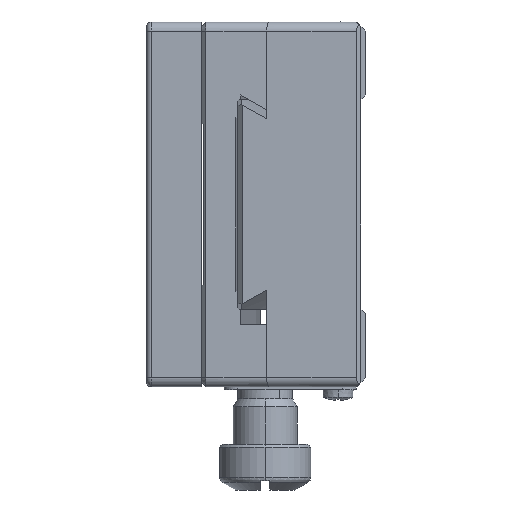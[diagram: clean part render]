
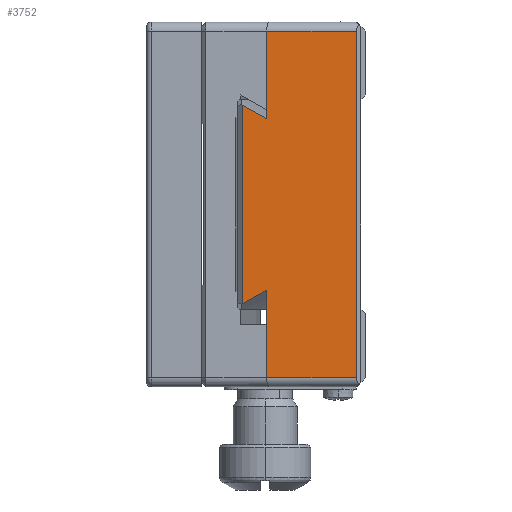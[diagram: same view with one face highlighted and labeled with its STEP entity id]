
A CAD part, left-side view. The second image highlights one B-rep face of the part: STEP entity #3752.
In plain terms, the highlighted planar face has unit normal (-1, 0, 0).
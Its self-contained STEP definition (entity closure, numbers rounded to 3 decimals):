
#139 = B_SPLINE_CURVE_WITH_KNOTS ( 'NONE', 3,
 ( #7684, #8243, #36913, #17861 ),
 .UNSPECIFIED., .F., .F.,
 ( 4, 4 ),
 ( 0.013, 0.016 ),
 .UNSPECIFIED. ) ;
#1006 = ORIENTED_EDGE ( 'NONE', *, *, #37085, .T. ) ;
#1068 = EDGE_LOOP ( 'NONE', ( #5931, #1397, #15927, #13439, #18170, #2226, #29229, #1006 ) ) ;
#1397 = ORIENTED_EDGE ( 'NONE', *, *, #25516, .T. ) ;
#2022 = DIRECTION ( 'NONE',  ( 0., 1., 0. ) ) ;
#2226 = ORIENTED_EDGE ( 'NONE', *, *, #28968, .T. ) ;
#2250 = DIRECTION ( 'NONE',  ( 0., 0., -1. ) ) ;
#2450 = VERTEX_POINT ( 'NONE', #9003 ) ;
#2877 = DIRECTION ( 'NONE',  ( 0., 0., -1. ) ) ;
#3685 = DIRECTION ( 'NONE',  ( 1., 0., 0. ) ) ;
#3752 = ADVANCED_FACE ( 'NONE', ( #32842 ), #16351, .F. ) ;
#5931 = ORIENTED_EDGE ( 'NONE', *, *, #14426, .T. ) ;
#6574 = VERTEX_POINT ( 'NONE', #34951 ) ;
#7684 = CARTESIAN_POINT ( 'NONE',  ( -27., -93.167, 9.402 ) ) ;
#8243 = CARTESIAN_POINT ( 'NONE',  ( -27., -92.278, 9.895 ) ) ;
#8363 = VECTOR ( 'NONE', #2022, 1000. ) ;
#8469 = LINE ( 'NONE', #28451, #32856 ) ;
#9003 = CARTESIAN_POINT ( 'NONE',  ( -27., -93.167, 19. ) ) ;
#10941 = EDGE_CURVE ( 'NONE', #36643, #2450, #25331, .T. ) ;
#11441 = CARTESIAN_POINT ( 'NONE',  ( -27., -93.167, 19. ) ) ;
#11847 = AXIS2_PLACEMENT_3D ( 'NONE', #32200, #3685, #25944 ) ;
#12177 = EDGE_CURVE ( 'NONE', #20521, #36643, #28229, .T. ) ;
#12189 = VERTEX_POINT ( 'NONE', #38967 ) ;
#12976 = CARTESIAN_POINT ( 'NONE',  ( -27., -90.5, -10.879 ) ) ;
#13405 = VECTOR ( 'NONE', #2250, 1000. ) ;
#13439 = ORIENTED_EDGE ( 'NONE', *, *, #10941, .T. ) ;
#13745 = CARTESIAN_POINT ( 'NONE',  ( -27., -93.167, -19. ) ) ;
#14296 = VERTEX_POINT ( 'NONE', #30263 ) ;
#14426 = EDGE_CURVE ( 'NONE', #29760, #33152, #32538, .T. ) ;
#15330 = CARTESIAN_POINT ( 'NONE',  ( -27., -90.5, 20. ) ) ;
#15927 = ORIENTED_EDGE ( 'NONE', *, *, #12177, .T. ) ;
#16351 = PLANE ( 'NONE',  #11847 ) ;
#16825 = EDGE_CURVE ( 'NONE', #2450, #14296, #8469, .T. ) ;
#17263 = EDGE_CURVE ( 'NONE', #12189, #6574, #30336, .T. ) ;
#17861 = CARTESIAN_POINT ( 'NONE',  ( -27., -90.5, 10.879 ) ) ;
#18170 = ORIENTED_EDGE ( 'NONE', *, *, #16825, .T. ) ;
#19402 = CARTESIAN_POINT ( 'NONE',  ( -27., -93.167, -9.402 ) ) ;
#19601 = DIRECTION ( 'NONE',  ( 0., -1., 0. ) ) ;
#19763 = VECTOR ( 'NONE', #38829, 1000. ) ;
#20521 = VERTEX_POINT ( 'NONE', #20758 ) ;
#20758 = CARTESIAN_POINT ( 'NONE',  ( -27., -103., -19. ) ) ;
#20876 = CARTESIAN_POINT ( 'NONE',  ( -27., -93.167, -9.402 ) ) ;
#21942 = CARTESIAN_POINT ( 'NONE',  ( -27., -93.167, 0. ) ) ;
#22372 = CARTESIAN_POINT ( 'NONE',  ( -27., -103., 19. ) ) ;
#23880 = B_SPLINE_CURVE_WITH_KNOTS ( 'NONE', 3,
 ( #12976, #32062, #38465, #19402 ),
 .UNSPECIFIED., .F., .F.,
 ( 4, 4 ),
 ( 0.012, 0.015 ),
 .UNSPECIFIED. ) ;
#24112 = VECTOR ( 'NONE', #2877, 1000. ) ;
#25331 = LINE ( 'NONE', #11441, #8363 ) ;
#25516 = EDGE_CURVE ( 'NONE', #33152, #20521, #31719, .T. ) ;
#25944 = DIRECTION ( 'NONE',  ( 0., 1., 0. ) ) ;
#28229 = LINE ( 'NONE', #35620, #19763 ) ;
#28451 = CARTESIAN_POINT ( 'NONE',  ( -27., -93.167, 0. ) ) ;
#28968 = EDGE_CURVE ( 'NONE', #14296, #12189, #139, .T. ) ;
#29229 = ORIENTED_EDGE ( 'NONE', *, *, #17263, .T. ) ;
#29760 = VERTEX_POINT ( 'NONE', #20876 ) ;
#30263 = CARTESIAN_POINT ( 'NONE',  ( -27., -93.167, 9.402 ) ) ;
#30336 = LINE ( 'NONE', #15330, #13405 ) ;
#30694 = VECTOR ( 'NONE', #19601, 1000. ) ;
#31654 = DIRECTION ( 'NONE',  ( 0., 0., -1. ) ) ;
#31719 = LINE ( 'NONE', #38655, #30694 ) ;
#32062 = CARTESIAN_POINT ( 'NONE',  ( -27., -91.389, -10.387 ) ) ;
#32200 = CARTESIAN_POINT ( 'NONE',  ( -27., -90., 20. ) ) ;
#32538 = LINE ( 'NONE', #21942, #24112 ) ;
#32842 = FACE_OUTER_BOUND ( 'NONE', #1068, .T. ) ;
#32856 = VECTOR ( 'NONE', #31654, 1000. ) ;
#33152 = VERTEX_POINT ( 'NONE', #13745 ) ;
#34951 = CARTESIAN_POINT ( 'NONE',  ( -27., -90.5, -10.879 ) ) ;
#35620 = CARTESIAN_POINT ( 'NONE',  ( -27., -103., 20. ) ) ;
#36643 = VERTEX_POINT ( 'NONE', #22372 ) ;
#36913 = CARTESIAN_POINT ( 'NONE',  ( -27., -91.389, 10.387 ) ) ;
#37085 = EDGE_CURVE ( 'NONE', #6574, #29760, #23880, .T. ) ;
#38465 = CARTESIAN_POINT ( 'NONE',  ( -27., -92.278, -9.895 ) ) ;
#38655 = CARTESIAN_POINT ( 'NONE',  ( -27., -90., -19. ) ) ;
#38829 = DIRECTION ( 'NONE',  ( 0., 0., 1. ) ) ;
#38967 = CARTESIAN_POINT ( 'NONE',  ( -27., -90.5, 10.879 ) ) ;
